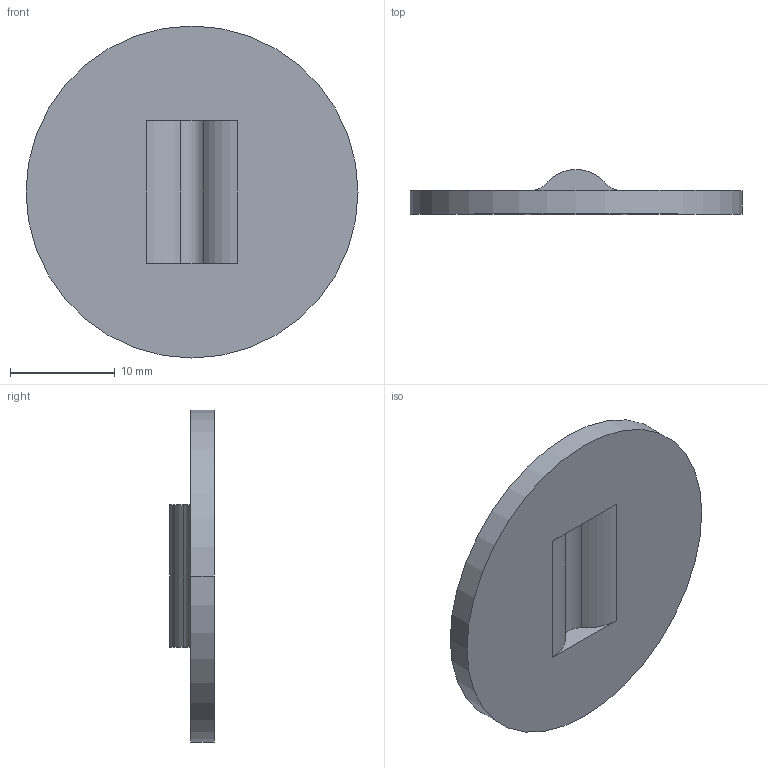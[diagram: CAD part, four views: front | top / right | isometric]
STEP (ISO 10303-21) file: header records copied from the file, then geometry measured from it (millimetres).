
FILE_DESCRIPTION (( 'STEP AP203' ), '1' );
FILE_NAME ('1192625-10.STEP', '2024-11-14T17:35:02', ( '' ), ( '' ), 'SwSTEP 2.0', 'SolidWorks 2024', '' );
FILE_SCHEMA (( 'CONFIG_CONTROL_DESIGN' ));
Length unit declared in the file: inch
Products named in the file (1): 1192625-10
Bounding box: 31.75 x 4.27 x 31.75 mm (x, y, z)
Volume: 1826.4 mm3; surface area: 1874.7 mm2
Topology: 1 solids, 1 shells, 14 faces, 30 edges, 20 vertices
Faces by surface type: cylinder 8, plane 6
Entity records: 469 total; most frequent: DIRECTION 76, CARTESIAN_POINT 65, ORIENTED_EDGE 60, AXIS2_PLACEMENT_3D 31, EDGE_CURVE 30, VERTEX_POINT 20, CIRCLE 16, EDGE_LOOP 16
